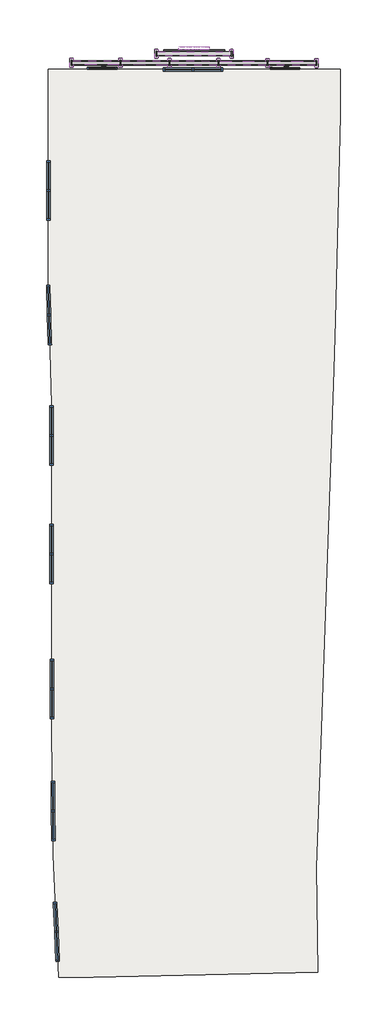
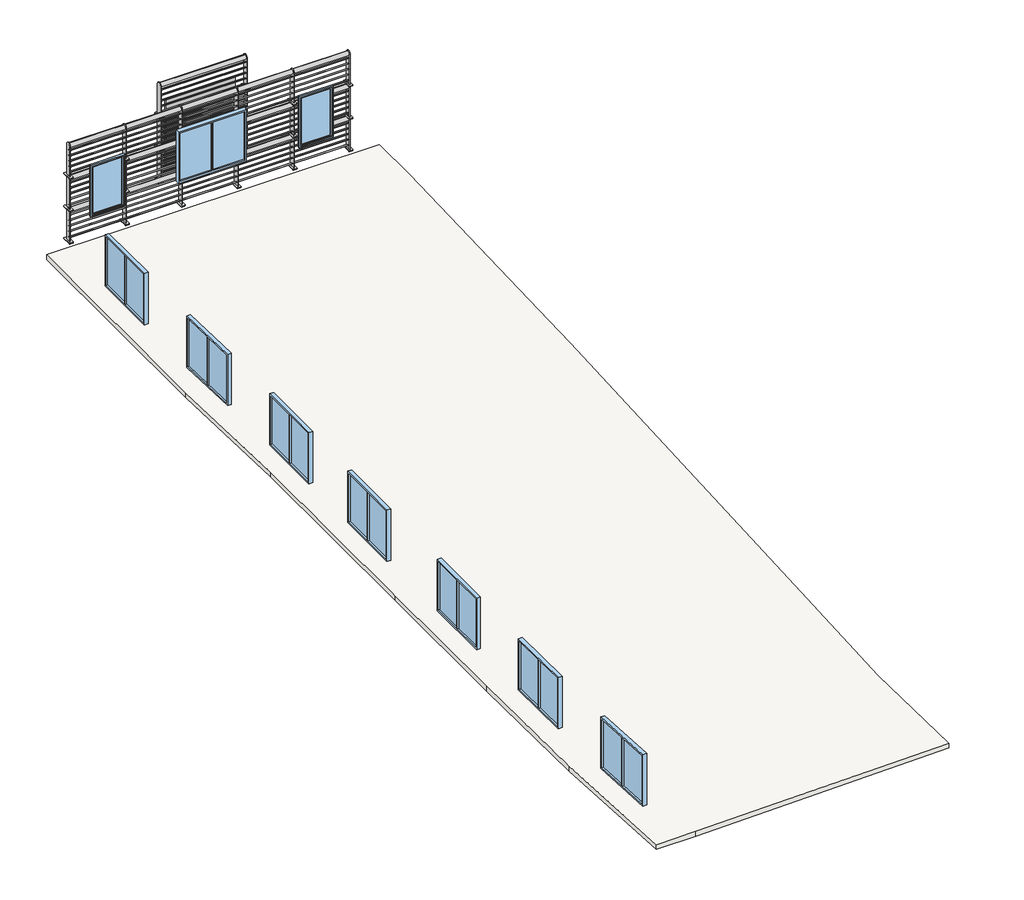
# One storey: 10 windows, 7 proxies, 1 furniture element, 1 slab.
"""IFC4 building model written with IfcOpenShell, lengths in millimetres."""

from ifc_helpers import new_model, si_unit, frame, origin, place, context, project, spatial, polyline, outline, extrude, transform, mapped, element, save
from components import generic_models_939d28b0, brise_soleil_brise_soleil_92fbaf2c, brise_soleil_brise_soleil_2_45c54e24, furniture_1719f5d7, window_d016f1b2, j12_2_00_x_1_60_1745ae86

model = new_model("IFC4")

# Units and contexts
model_context = context("Model", 3, world=origin())
ifc_project = project(units=[si_unit("LENGTHUNIT", "METRE", prefix="MILLI")], contexts=[model_context])

# Site, building, storey
site = spatial("IfcSite", under=ifc_project)
building = spatial("IfcBuilding", under=site)
storey = spatial("IfcBuildingStorey", under=building, Name="2º ANDAR", Elevation=6100.0)

# Proxies
placement = place(None, origin())
generic_models_shape = generic_models_939d28b0(model_context)
element("IfcBuildingElementProxy", 1, Name="BRASAO : BRASAO", ObjectType="BRASAO : BRASAO", at=placement, inside=storey, context=model_context, shape_type="MappedRepresentation", body=[
    mapped(generic_models_shape, transform((0.0, 0.0, 0.0), x_axis=(1.0, 0.0, 0.0), y_axis=(0.0, 1.0, 0.0), z_axis=(0.0, 0.0, 1.0))),
])
brise_soleil_brise_soleil_shape = brise_soleil_brise_soleil_92fbaf2c(model_context)
element("IfcBuildingElementProxy", 2, Name="Brise soleil : Brise soleil", ObjectType="Brise soleil : Brise soleil", at=placement, inside=storey, context=model_context, shape_type="MappedRepresentation", body=[
    mapped(brise_soleil_brise_soleil_shape, transform((-2343.0395397, 17030.4680386, 6130.0), x_axis=(0.9999993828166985, -0.0011110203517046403, 0.0), y_axis=(0.0, 0.0, -1.0), z_axis=(0.0011110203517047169, 0.9999993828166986, 0.0))),
])
element("IfcBuildingElementProxy", 3, Name="Brise soleil : Brise soleil", ObjectType="Brise soleil : Brise soleil", at=placement, inside=storey, context=model_context, shape_type="MappedRepresentation", body=[
    mapped(brise_soleil_brise_soleil_shape, transform((-2343.0395397, 17030.4680386, 7130.0), x_axis=(0.9999993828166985, -0.0011110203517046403, 0.0), y_axis=(0.0, 0.0, -1.0), z_axis=(0.0011110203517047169, 0.9999993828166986, 0.0))),
])
element("IfcBuildingElementProxy", 4, Name="Brise soleil : Brise soleil", ObjectType="Brise soleil : Brise soleil", at=placement, inside=storey, context=model_context, shape_type="MappedRepresentation", body=[
    mapped(brise_soleil_brise_soleil_shape, transform((-2343.0395397, 17030.4680386, 8150.0), x_axis=(0.9999993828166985, -0.0011110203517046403, 0.0), y_axis=(0.0, 0.0, -1.0), z_axis=(0.0011110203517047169, 0.9999993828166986, 0.0))),
])
brise_soleil_brise_soleil_2_shape = brise_soleil_brise_soleil_2_45c54e24(model_context)
element("IfcBuildingElementProxy", 5, Name="Brise soleil : Brise soleil 2", ObjectType="Brise soleil : Brise soleil 2", at=placement, inside=storey, context=model_context, shape_type="MappedRepresentation", body=[
    mapped(brise_soleil_brise_soleil_2_shape, transform((506.9569424, 17334.8021309, 6790.0), x_axis=(0.9999993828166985, -0.0011110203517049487, 0.0), y_axis=(0.0, 0.0, -1.0), z_axis=(0.0011110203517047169, 0.9999993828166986, 0.0))),
])
element("IfcBuildingElementProxy", 6, Name="Brise soleil : Brise soleil 2", ObjectType="Brise soleil : Brise soleil 2", at=placement, inside=storey, context=model_context, shape_type="MappedRepresentation", body=[
    mapped(brise_soleil_brise_soleil_2_shape, transform((506.9569424, 17334.8021309, 7820.0), x_axis=(0.9999993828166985, -0.0011110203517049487, 0.0), y_axis=(0.0, 0.0, -1.0), z_axis=(0.0011110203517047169, 0.9999993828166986, 0.0))),
])
element("IfcBuildingElementProxy", 7, Name="Brise soleil : Brise soleil 2", ObjectType="Brise soleil : Brise soleil 2", at=placement, inside=storey, context=model_context, shape_type="MappedRepresentation", body=[
    mapped(brise_soleil_brise_soleil_2_shape, transform((506.9569424, 17334.8021309, 8845.0), x_axis=(0.9999993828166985, -0.0011110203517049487, 0.0), y_axis=(0.0, 0.0, -1.0), z_axis=(0.0011110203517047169, 0.9999993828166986, 0.0))),
])

# Furniture
furniture_shape = furniture_1719f5d7(model_context)
element("IfcFurniture", 8, ObjectType="Logomarca para revit : Logomarca para revit", at=placement, inside=storey, context=model_context, shape_type="MappedRepresentation", body=[
    mapped(furniture_shape, transform((1792.2072163, 18433.4769048, 7395.2776873), x_axis=(-1.0, 0.0, 0.0), y_axis=(0.0, -1.0, 0.0), z_axis=(0.0, 0.0, 1.0))),
])

# Slab
element("IfcSlab", 9, ObjectType="Piso de Cerâmica (0.15m)", at=placement, inside=storey, context=model_context, shape_type="SweptSolid", body=[
    extrude(outline(polyline([(6694.2338956, 16232.9278898), (6527.9552559, 9334.9317015), (6487.951989, 7675.4137779), (6050.3123003, -4856.9471929), (5889.9377057, -9053.88417), (5951.3701764, -12573.3480569), (-1606.5449744, -12750.8827663), (-2766.5449744, -12750.8827663), (-2946.7799792, -8634.8269669), (-3000.9091284, -4495.1808425), (-3000.9091284, 164.8191575), (-3000.9091284, 6513.0412123), (-3109.8194631, 10661.4355187), (-3109.8194631, 17763.8203993), (6694.2338956, 17763.8203993), (6694.2338956, 16232.9278898)])), frame((0.0, 0.0, 5950.0), z_axis=(0.0, 0.0, 1.0), x_axis=(1.0, 0.0, 0.0)), (0.0, 0.0, 1.0), 150.0),
])

# Windows
window_shape = window_d016f1b2(model_context)
element("IfcWindow", 10, ObjectType="Janela maxim-ar - 1 Painel : J11 - Janela maxim-ar - 1 Painel", at=placement, inside=storey, context=model_context, shape_type="MappedRepresentation", body=[
    mapped(window_shape, transform((-1295.5242171, 17761.8046791, 6150.0), x_axis=(-0.9999993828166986, 0.0011110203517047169, 0.0), y_axis=(-0.0011110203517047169, -0.9999993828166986, 0.0), z_axis=(0.0, 0.0, 1.0))),
])
element("IfcWindow", 11, ObjectType="Janela maxim-ar - 1 Painel : J11 - Janela maxim-ar - 1 Painel", at=placement, inside=storey, context=model_context, shape_type="MappedRepresentation", body=[
    mapped(window_shape, transform((4843.453642, 17754.9841456, 6150.0), x_axis=(-0.9999993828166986, 0.0011110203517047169, 0.0), y_axis=(-0.0011110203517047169, -0.9999993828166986, 0.0), z_axis=(0.0, 0.0, 1.0))),
])
j12_2_00_x_1_60_shape = j12_2_00_x_1_60_1745ae86(model_context)
element("IfcWindow", 12, ObjectType="Abrir 2 Folhas : J12 - 2,00 x 1,60", at=placement, inside=storey, context=model_context, shape_type="MappedRepresentation", body=[
    mapped(j12_2_00_x_1_60_shape, transform((1375.2512877, 17785.3949324, 6100.0), x_axis=(-0.9999993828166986, 0.0011110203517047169, 0.0), y_axis=(-0.0011110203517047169, -0.9999993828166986, 0.0), z_axis=(0.0, 0.0, 1.0))),
])
element("IfcWindow", 13, ObjectType="Abrir 2 Folhas : J12 - 2,00 x 1,60", at=placement, inside=storey, context=model_context, shape_type="MappedRepresentation", body=[
    mapped(j12_2_00_x_1_60_shape, transform((-3096.5665392, 9144.7071039, 6100.0), x_axis=(0.026244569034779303, -0.9996555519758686, 0.0), y_axis=(0.9996555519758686, 0.026244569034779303, 0.0), z_axis=(0.0, 0.0, 1.0))),
])
element("IfcWindow", 14, ObjectType="Abrir 2 Folhas : J12 - 2,00 x 1,60", at=placement, inside=storey, context=model_context, shape_type="MappedRepresentation", body=[
    mapped(j12_2_00_x_1_60_shape, transform((-3021.8254293, 5093.1037251, 6100.0), x_axis=(0.0, -1.0, 0.0), y_axis=(1.0, 0.0, 0.0), z_axis=(0.0, 0.0, 1.0))),
])
element("IfcWindow", 15, ObjectType="Abrir 2 Folhas : J12 - 2,00 x 1,60", at=placement, inside=storey, context=model_context, shape_type="MappedRepresentation", body=[
    mapped(j12_2_00_x_1_60_shape, transform((-2841.4558, -11588.9640412, 6100.0), x_axis=(0.04374636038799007, -0.9990426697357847, 0.0), y_axis=(0.9990426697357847, 0.04374636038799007, 0.0), z_axis=(0.0, 0.0, 1.0))),
])
element("IfcWindow", 16, ObjectType="Abrir 2 Folhas : J12 - 2,00 x 1,60", at=placement, inside=storey, context=model_context, shape_type="MappedRepresentation", body=[
    mapped(j12_2_00_x_1_60_shape, transform((-3021.8254293, 1108.8265133, 6100.0), x_axis=(0.0, -1.0, 0.0), y_axis=(1.0, 0.0, 0.0), z_axis=(0.0, 0.0, 1.0))),
])
element("IfcWindow", 17, ObjectType="Abrir 2 Folhas : J12 - 2,00 x 1,60", at=placement, inside=storey, context=model_context, shape_type="MappedRepresentation", body=[
    mapped(j12_2_00_x_1_60_shape, transform((-3083.2619385, 14062.739593, 6100.0), x_axis=(0.0, 1.0, 0.0), y_axis=(-1.0, 0.0, 0.0), z_axis=(0.0, 0.0, 1.0))),
])
element("IfcWindow", 18, ObjectType="Abrir 2 Folhas : J12 - 2,00 x 1,60", at=placement, inside=storey, context=model_context, shape_type="MappedRepresentation", body=[
    mapped(j12_2_00_x_1_60_shape, transform((-2968.71038, -2689.9976906, 6100.0), x_axis=(0.0, 1.0, 0.0), y_axis=(-1.0, 0.0, 0.0), z_axis=(0.0, 0.0, 1.0))),
])
element("IfcWindow", 19, ObjectType="Abrir 2 Folhas : J12 - 2,00 x 1,60", at=placement, inside=storey, context=model_context, shape_type="MappedRepresentation", body=[
    mapped(j12_2_00_x_1_60_shape, transform((-2934.4808539, -6780.3634747, 6100.0), x_axis=(-0.009189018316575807, 0.9999577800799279, 0.0), y_axis=(-0.9999577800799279, -0.009189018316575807, 0.0), z_axis=(0.0, 0.0, 1.0))),
])

save(model, "model.ifc")
